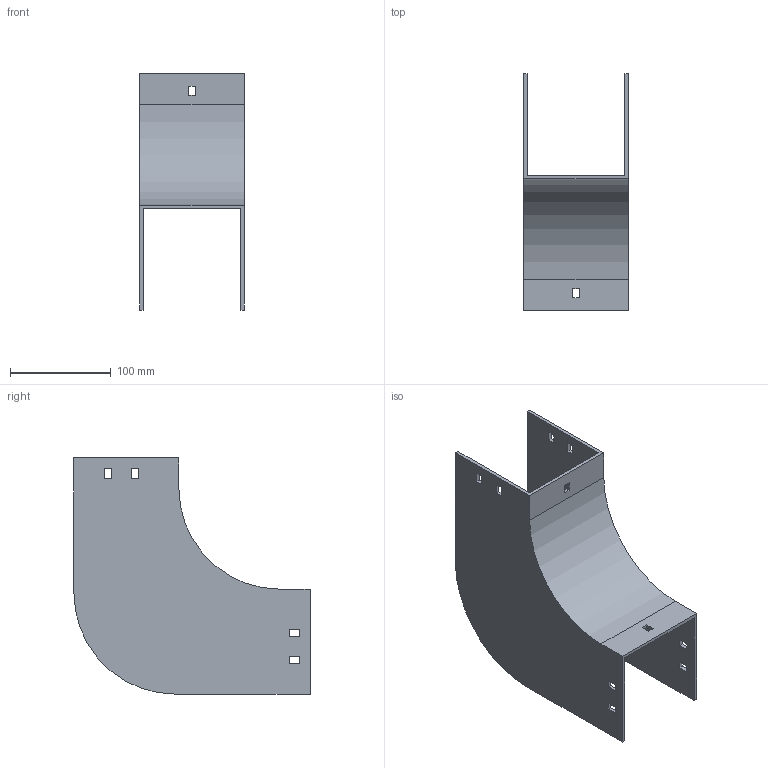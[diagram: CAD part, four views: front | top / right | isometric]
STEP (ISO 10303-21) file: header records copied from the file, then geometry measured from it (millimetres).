
FILE_DESCRIPTION (( 'STEP AP214' ), '1' );
FILE_NAME ('33F1D100.step', '2025-02-21T12:51:43', ( '' ), ( '' ), 'SwSTEP 2.0', 'SolidWorks 2023', '' );
FILE_SCHEMA (( 'AUTOMOTIVE_DESIGN' ));
Length unit declared in the file: millimetre
Products named in the file (1): 33F1D100
Bounding box: 104 x 234 x 234 mm (x, y, z)
Volume: 337254.3 mm3; surface area: 198977 mm2
Topology: 1 solids, 1 shells, 58 faces, 168 edges, 112 vertices
Faces by surface type: plane 54, cylinder 4
Entity records: 1943 total; most frequent: CARTESIAN_POINT 339, ORIENTED_EDGE 336, DIRECTION 294, EDGE_CURVE 168, VECTOR 160, LINE 160, VERTEX_POINT 112, EDGE_LOOP 78
